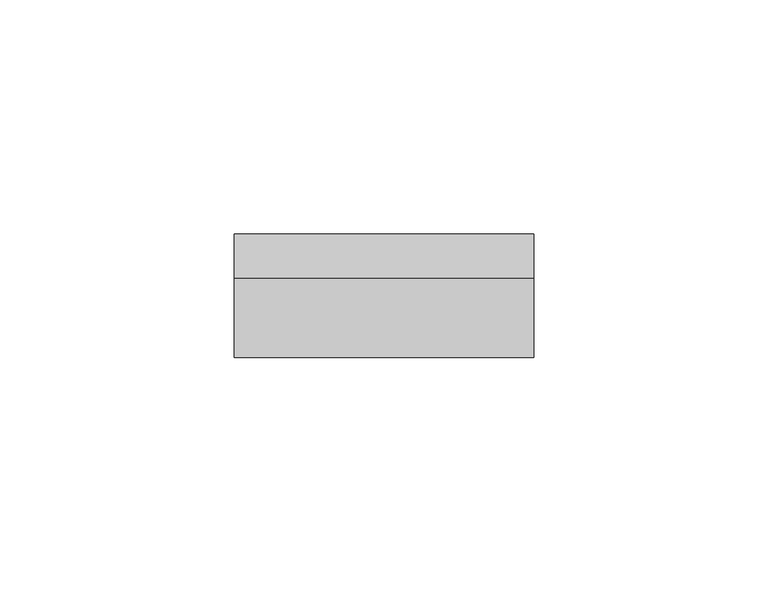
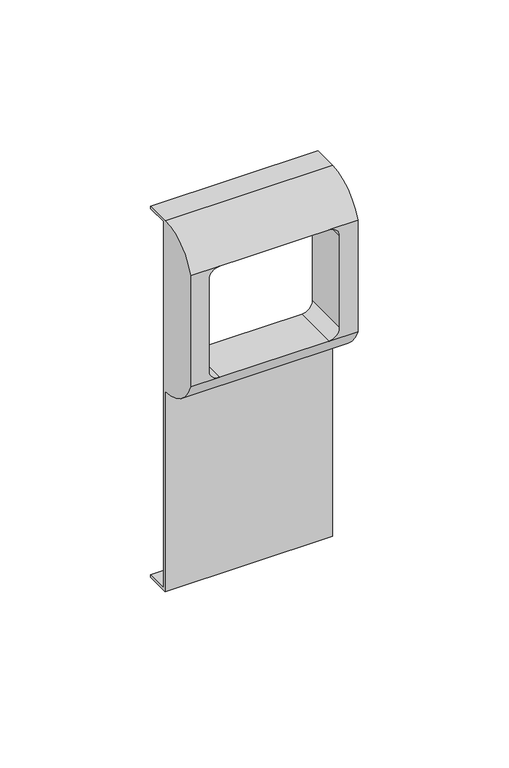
"""IFC4 building model written with IfcOpenShell, lengths in millimetres: proxy geometry, КНС_РамкаСуппорт_ILC_DKC : 45х45."""

from ifc_helpers import new_model, si_unit, frame, origin, place, context, project, spatial, polyline, circle_curve, source, transform, mapped, element, save
from ifc_brep_helpers import plane_surface, cylinder_surface, revolved_surface, advanced_brep


def electrical_fixtures_3a0d8bb6(model_context):
    return source(origin(), model_context, "Body", "AdvancedBrep", [
        advanced_brep(
        [(32.0, 8.4, 74.0), (32.0, 8.4, 75.0), (32.0, -1.0, 75.0), (32.0, -18.0, 63.0), (32.0, -18.0, 18.0), (32.0, -1.0, 6.0), (32.0, -1.0, -75.0), (32.0, 8.4, -75.0), (32.0, 8.4, -74.0), (32.0, 0.0, -74.0), (32.0, 0.0, 74.0), (-32.0, 8.4, 74.0), (-32.0, 0.0, 74.0), (-32.0, 0.0, -74.0), (-32.0, 8.4, -74.0), (-32.0, 8.4, -75.0), (-32.0, -1.0, -75.0), (-32.0, -1.0, 6.0), (-32.0, -18.0, 18.0), (-32.0, -18.0, 63.0), (-32.0, -1.0, 75.0), (-32.0, 8.4, 75.0), (20.9686648, -18.0, 63.0), (25.0, -18.0, 58.9686648), (25.0, -18.0, 22.0313352), (20.9686648, -18.0, 18.0), (-20.9686648, -18.0, 18.0), (-25.0, -18.0, 22.0313352), (-25.0, -18.0, 58.9686648), (-20.9686648, -18.0, 63.0), (20.9686648, 0.0, 63.0), (-20.9686648, 0.0, 63.0), (-25.0, 0.0, 58.9686648), (-25.0, 0.0, 22.0313352), (-20.9686648, 0.0, 18.0), (20.9686648, 0.0, 18.0), (25.0, 0.0, 22.0313352), (25.0, 0.0, 58.9686648)],
        [
            (0, 1),
            (1, 2),
            (2, 3, circle_curve(frame((32.0, -1.0, 56.9583333), z_axis=(1.0, 0.0, 0.0), x_axis=(0.0, 1.0, 0.0)), 18.0416667)),
            (3, 4),
            (4, 5, circle_curve(frame((32.0, -1.0, 24.0416667), z_axis=(1.0, 0.0, 0.0), x_axis=(0.0, 1.0, 0.0)), 18.0416667)),
            (5, 6),
            (6, 7),
            (7, 8),
            (8, 9),
            (9, 10),
            (10, 0),
            (11, 12),
            (12, 13),
            (13, 14),
            (14, 15),
            (15, 16),
            (16, 17),
            (17, 18, circle_curve(frame((-32.0, -1.0, 24.0416667), z_axis=(-1.0, 0.0, 0.0), x_axis=(0.0, 1.0, 0.0)), 18.0416667)),
            (18, 19),
            (19, 20, circle_curve(frame((-32.0, -1.0, 56.9583333), z_axis=(-1.0, 0.0, 0.0), x_axis=(0.0, 1.0, 0.0)), 18.0416667)),
            (20, 21),
            (21, 11),
            (0, 11),
            (21, 1),
            (20, 2),
            (3, 22),
            (22, 23, circle_curve(frame((20.9686648, -18.0, 58.9686648), z_axis=(0.0, 1.0, 0.0), x_axis=(1.0, 0.0, 0.0)), 4.0313352)),
            (23, 24),
            (24, 25, circle_curve(frame((20.9686648, -18.0, 22.0313352), z_axis=(0.0, 1.0, 0.0), x_axis=(1.0, 0.0, 0.0)), 4.0313352)),
            (25, 4),
            (18, 26),
            (26, 27, circle_curve(frame((-20.9686648, -18.0, 22.0313352), z_axis=(0.0, 1.0, 0.0), x_axis=(1.0, 0.0, 0.0)), 4.0313352)),
            (27, 28),
            (28, 29, circle_curve(frame((-20.9686648, -18.0, 58.9686648), z_axis=(0.0, 1.0, 0.0), x_axis=(1.0, 0.0, 0.0)), 4.0313352)),
            (29, 19),
            (5, 17),
            (16, 6),
            (15, 7),
            (14, 8),
            (13, 9),
            (12, 10),
            (30, 31),
            (31, 32, circle_curve(frame((-20.9686648, 0.0, 58.9686648), z_axis=(0.0, -1.0, 0.0), x_axis=(1.0, 0.0, 0.0)), 4.0313352)),
            (32, 33),
            (33, 34, circle_curve(frame((-20.9686648, 0.0, 22.0313352), z_axis=(0.0, -1.0, 0.0), x_axis=(1.0, 0.0, 0.0)), 4.0313352)),
            (34, 35),
            (35, 36, circle_curve(frame((20.9686648, 0.0, 22.0313352), z_axis=(0.0, -1.0, 0.0), x_axis=(1.0, 0.0, 0.0)), 4.0313352)),
            (36, 37),
            (37, 30, circle_curve(frame((20.9686648, 0.0, 58.9686648), z_axis=(0.0, -1.0, 0.0), x_axis=(1.0, 0.0, 0.0)), 4.0313352)),
            (29, 22),
            (25, 26),
            (29, 31),
            (30, 22),
            (28, 32),
            (27, 33),
            (26, 34),
            (25, 35),
            (24, 36),
            (23, 37),
        ],
        [
            plane_surface(frame((32.0, 8.4, 75.0), z_axis=(1.0, 0.0, 0.0), x_axis=(0.0, 0.0, 1.0))),
            plane_surface(frame((-32.0, 8.4, 75.0), z_axis=(-1.0, 0.0, 0.0), x_axis=(0.0, 0.0, -1.0))),
            plane_surface(frame((32.0, 8.4, 74.0), z_axis=(0.0, 1.0, 0.0), x_axis=(-1.0, 0.0, 0.0))),
            plane_surface(frame((32.0, 8.4, 75.0), z_axis=(0.0, 0.0, 1.0), x_axis=(-1.0, 0.0, 0.0))),
            plane_surface(frame((32.0, -18.0, 63.0), z_axis=(0.0, -1.0, 0.0), x_axis=(-1.0, 0.0, 0.0))),
            plane_surface(frame((32.0, -1.0, 6.0), z_axis=(0.0, -1.0, 0.0), x_axis=(-1.0, 0.0, 0.0))),
            plane_surface(frame((32.0, -1.0, -75.0), z_axis=(0.0, 0.0, -1.0), x_axis=(-1.0, 0.0, 0.0))),
            plane_surface(frame((32.0, 8.4, -75.0), z_axis=(0.0, 1.0, 0.0), x_axis=(-1.0, 0.0, 0.0))),
            plane_surface(frame((32.0, 8.4, -74.0), z_axis=(0.0, 0.0, 1.0), x_axis=(-1.0, 0.0, 0.0))),
            plane_surface(frame((32.0, 0.0, -74.0), z_axis=(0.0, 1.0, 0.0), x_axis=(-1.0, 0.0, 0.0))),
            plane_surface(frame((32.0, 0.0, 74.0), z_axis=(0.0, 0.0, -1.0), x_axis=(-1.0, 0.0, 0.0))),
            cylinder_surface(frame((-32.0, -1.0, 56.9583333), z_axis=(1.0, 0.0, 0.0), x_axis=(0.0, 1.0, 0.0)), 18.0416667),
            cylinder_surface(frame((-32.0, -1.0, 24.0416667), z_axis=(1.0, 0.0, 0.0), x_axis=(0.0, 1.0, 0.0)), 18.0416667),
            plane_surface(frame((20.9686648, -18.0, 63.0), z_axis=(0.0, 0.0, -1.0), x_axis=(0.0, 1.0, 0.0))),
            revolved_surface(polyline([(-16.937329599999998, -18.0, 58.9686648), (-16.937329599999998, 0.0, 58.9686648)]), (-20.9686648, 0.0, 58.9686648), (0.0, -1.0, 0.0)),
            plane_surface(frame((-25.0, -18.0, 58.9686648), z_axis=(1.0, 0.0, 0.0), x_axis=(0.0, 1.0, 0.0))),
            revolved_surface(polyline([(-16.937329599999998, -18.0, 22.0313352), (-16.937329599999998, 0.0, 22.0313352)]), (-20.9686648, 0.0, 22.0313352), (0.0, -1.0, 0.0)),
            plane_surface(frame((-20.9686648, -18.0, 18.0), z_axis=(0.0, 0.0, 1.0), x_axis=(0.0, 1.0, 0.0))),
            revolved_surface(polyline([(25.0, -18.0, 22.0313352), (25.0, 0.0, 22.0313352)]), (20.9686648, 0.0, 22.0313352), (0.0, -1.0, 0.0)),
            plane_surface(frame((25.0, -18.0, 22.0313352), z_axis=(-1.0, 0.0, 0.0), x_axis=(0.0, 1.0, 0.0))),
            revolved_surface(polyline([(25.0, -18.0, 58.9686648), (25.0, 0.0, 58.9686648)]), (20.9686648, 0.0, 58.9686648), (0.0, -1.0, 0.0)),
        ],
        [
            (0, [[1, 2, 3, 4, 5, 6, 7, 8, 9, 10, 11]]),
            (1, [[12, 13, 14, 15, 16, 17, 18, 19, 20, 21, 22]]),
            (2, [[-1, 23, -22, 24]]),
            (3, [[-2, -24, -21, 25]]),
            (4, [[-4, 26, 27, 28, 29, 30]]),
            (4, [[-19, 31, 32, 33, 34, 35]]),
            (5, [[-6, 36, -17, 37]]),
            (6, [[-7, -37, -16, 38]]),
            (7, [[-8, -38, -15, 39]]),
            (8, [[-9, -39, -14, 40]]),
            (9, [[-10, -40, -13, 41], [42, 43, 44, 45, 46, 47, 48, 49]]),
            (10, [[-11, -41, -12, -23]]),
            (11, [[-3, -25, -20, -35, 50, -26]]),
            (12, [[-5, -30, 51, -31, -18, -36]]),
            (13, [[52, -42, 53, -50]]),
            (14, [[-52, -34, 54, -43]]),
            (15, [[-54, -33, 55, -44]]),
            (16, [[-55, -32, 56, -45]]),
            (17, [[-56, -51, 57, -46]]),
            (18, [[-57, -29, 58, -47]]),
            (19, [[-58, -28, 59, -48]]),
            (20, [[-53, -49, -59, -27]]),
        ],
    ),
    ])


if __name__ == "__main__":
    model = new_model("IFC4")
    model_context = context("Model", 3, world=origin())
    ifc_project = project(units=[si_unit("LENGTHUNIT", "METRE", prefix="MILLI")], contexts=[model_context])
    site = spatial("IfcSite", under=ifc_project)
    building = spatial("IfcBuilding", under=site)
    placement = place(None, origin())
    electrical_fixtures_shape = electrical_fixtures_3a0d8bb6(model_context)
    element("IfcBuildingElementProxy", 1, Name="КНС_РамкаСуппорт_ILC_DKC : 45х45", ObjectType="КНС_РамкаСуппорт_ILC_DKC : 45х45", at=placement, inside=building, context=model_context, shape_type="MappedRepresentation", body=[
        mapped(electrical_fixtures_shape, transform((0.0, 0.0, 0.0), x_axis=(1.0, 0.0, 0.0), y_axis=(0.0, 1.0, 0.0), z_axis=(0.0, 0.0, 1.0))),
    ])
    save(model, "model.ifc")
